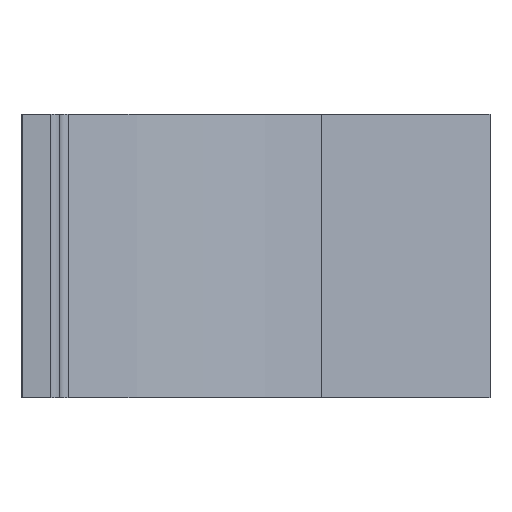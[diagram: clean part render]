
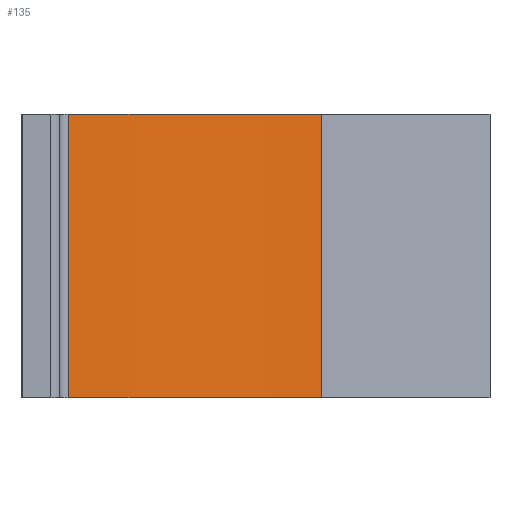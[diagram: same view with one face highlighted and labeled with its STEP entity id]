
A CAD part, left-side view. The second image highlights one B-rep face of the part: STEP entity #135.
In plain terms, the highlighted cylindrical face has radius 50.038 mm (diameter 100.075 mm), a partial arc.
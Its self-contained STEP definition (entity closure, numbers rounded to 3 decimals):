
#9 = LINE ( 'NONE', #80, #516 ) ;
#71 = DIRECTION ( 'NONE',  ( 0., 0., -1. ) ) ;
#75 = FACE_OUTER_BOUND ( 'NONE', #237, .T. ) ;
#80 = CARTESIAN_POINT ( 'NONE',  ( -49.691, -5.882, 30. ) ) ;
#116 = VERTEX_POINT ( 'NONE', #446 ) ;
#128 = DIRECTION ( 'NONE',  ( 0., 0., -1. ) ) ;
#135 = ADVANCED_FACE ( 'NONE', ( #75 ), #1303, .T. ) ;
#196 = VERTEX_POINT ( 'NONE', #1071 ) ;
#198 = ORIENTED_EDGE ( 'NONE', *, *, #966, .F. ) ;
#237 = EDGE_LOOP ( 'NONE', ( #1100, #198, #538, #1325 ) ) ;
#284 = VERTEX_POINT ( 'NONE', #1293 ) ;
#290 = LINE ( 'NONE', #1336, #1349 ) ;
#338 = DIRECTION ( 'NONE',  ( -1., 0., 0. ) ) ;
#400 = DIRECTION ( 'NONE',  ( -1., 0., 0. ) ) ;
#401 = DIRECTION ( 'NONE',  ( 0., 0., 1. ) ) ;
#403 = DIRECTION ( 'NONE',  ( 0., 0., 1. ) ) ;
#446 = CARTESIAN_POINT ( 'NONE',  ( -37.868, -32.707, 0. ) ) ;
#485 = CIRCLE ( 'NONE', #607, 50.038 ) ;
#506 = EDGE_CURVE ( 'NONE', #284, #786, #9, .T. ) ;
#516 = VECTOR ( 'NONE', #813, 1000. ) ;
#538 = ORIENTED_EDGE ( 'NONE', *, *, #548, .F. ) ;
#548 = EDGE_CURVE ( 'NONE', #284, #196, #485, .T. ) ;
#607 = AXIS2_PLACEMENT_3D ( 'NONE', #828, #401, #726 ) ;
#704 = AXIS2_PLACEMENT_3D ( 'NONE', #1276, #128, #338 ) ;
#726 = DIRECTION ( 'NONE',  ( -1., 0., 0. ) ) ;
#786 = VERTEX_POINT ( 'NONE', #902 ) ;
#813 = DIRECTION ( 'NONE',  ( 0., 0., -1. ) ) ;
#828 = CARTESIAN_POINT ( 'NONE',  ( 0., 0., 30. ) ) ;
#902 = CARTESIAN_POINT ( 'NONE',  ( -49.691, -5.882, 0. ) ) ;
#966 = EDGE_CURVE ( 'NONE', #196, #116, #290, .T. ) ;
#1043 = EDGE_CURVE ( 'NONE', #786, #116, #1205, .T. ) ;
#1071 = CARTESIAN_POINT ( 'NONE',  ( -37.868, -32.707, 30. ) ) ;
#1100 = ORIENTED_EDGE ( 'NONE', *, *, #1043, .T. ) ;
#1137 = CARTESIAN_POINT ( 'NONE',  ( 0., 0., 0. ) ) ;
#1205 = CIRCLE ( 'NONE', #1305, 50.038 ) ;
#1276 = CARTESIAN_POINT ( 'NONE',  ( 0., 0., 30. ) ) ;
#1293 = CARTESIAN_POINT ( 'NONE',  ( -49.691, -5.882, 30. ) ) ;
#1303 = CYLINDRICAL_SURFACE ( 'NONE', #704, 50.038 ) ;
#1305 = AXIS2_PLACEMENT_3D ( 'NONE', #1137, #403, #400 ) ;
#1325 = ORIENTED_EDGE ( 'NONE', *, *, #506, .T. ) ;
#1336 = CARTESIAN_POINT ( 'NONE',  ( -37.868, -32.707, 30. ) ) ;
#1349 = VECTOR ( 'NONE', #71, 1000. ) ;
